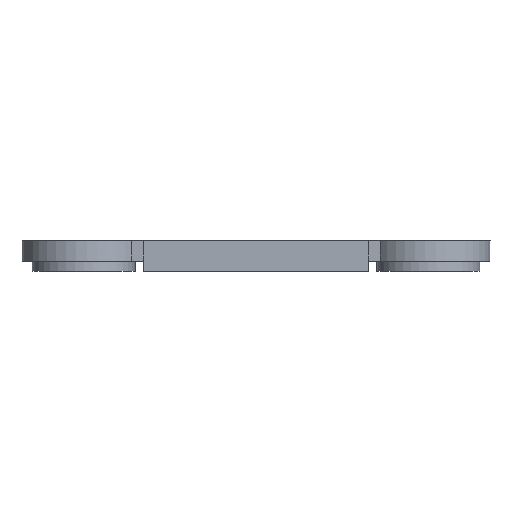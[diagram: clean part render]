
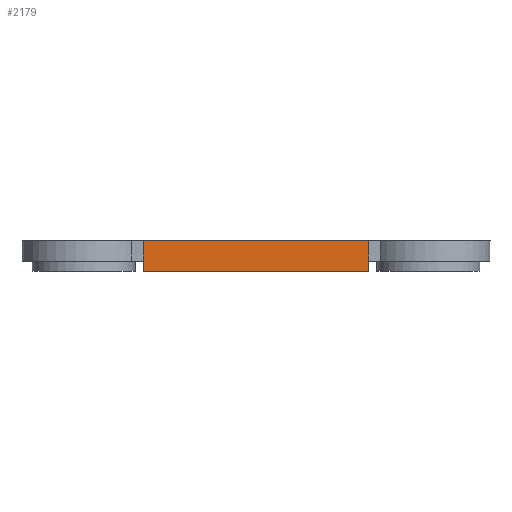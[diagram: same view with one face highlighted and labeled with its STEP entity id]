
A CAD part, front view. The second image highlights one B-rep face of the part: STEP entity #2179.
In plain terms, the highlighted planar face has unit normal (0, -1, 0).
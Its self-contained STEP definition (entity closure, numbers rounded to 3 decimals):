
#22 = VERTEX_POINT('',#23);
#23 = CARTESIAN_POINT('',(-4.238,-11.496,6.8));
#32 = PLANE('',#33);
#33 = AXIS2_PLACEMENT_3D('',#34,#35,#36);
#34 = CARTESIAN_POINT('',(-4.238,-11.496,5.6));
#35 = DIRECTION('',(1.,0.,-0.));
#36 = DIRECTION('',(0.,0.,1.));
#44 = PLANE('',#45);
#45 = AXIS2_PLACEMENT_3D('',#46,#47,#48);
#46 = CARTESIAN_POINT('',(-4.238,-11.496,6.8));
#47 = DIRECTION('',(0.,0.,1.));
#48 = DIRECTION('',(1.,0.,-0.));
#56 = EDGE_CURVE('',#57,#22,#59,.T.);
#57 = VERTEX_POINT('',#58);
#58 = CARTESIAN_POINT('',(-4.238,-11.496,5.6));
#59 = SURFACE_CURVE('',#60,(#64,#71),.PCURVE_S1.);
#60 = LINE('',#61,#62);
#61 = CARTESIAN_POINT('',(-4.238,-11.496,5.6));
#62 = VECTOR('',#63,1.);
#63 = DIRECTION('',(0.,0.,1.));
#64 = PCURVE('',#32,#65);
#65 = DEFINITIONAL_REPRESENTATION('',(#66),#70);
#66 = LINE('',#67,#68);
#67 = CARTESIAN_POINT('',(0.,0.));
#68 = VECTOR('',#69,1.);
#69 = DIRECTION('',(1.,0.));
#70 = ( GEOMETRIC_REPRESENTATION_CONTEXT(2) 
PARAMETRIC_REPRESENTATION_CONTEXT() REPRESENTATION_CONTEXT('2D SPACE',''
  ) );
#71 = PCURVE('',#72,#77);
#72 = PLANE('',#73);
#73 = AXIS2_PLACEMENT_3D('',#74,#75,#76);
#74 = CARTESIAN_POINT('',(-4.238,-11.496,5.6));
#75 = DIRECTION('',(-0.,1.,0.));
#76 = DIRECTION('',(0.,0.,1.));
#77 = DEFINITIONAL_REPRESENTATION('',(#78),#82);
#78 = LINE('',#79,#80);
#79 = CARTESIAN_POINT('',(0.,0.));
#80 = VECTOR('',#81,1.);
#81 = DIRECTION('',(1.,0.));
#82 = ( GEOMETRIC_REPRESENTATION_CONTEXT(2) 
PARAMETRIC_REPRESENTATION_CONTEXT() REPRESENTATION_CONTEXT('2D SPACE',''
  ) );
#100 = PLANE('',#101);
#101 = AXIS2_PLACEMENT_3D('',#102,#103,#104);
#102 = CARTESIAN_POINT('',(-4.238,-11.496,5.6));
#103 = DIRECTION('',(0.,0.,1.));
#104 = DIRECTION('',(1.,0.,-0.));
#806 = PLANE('',#807);
#807 = AXIS2_PLACEMENT_3D('',#808,#809,#810);
#808 = CARTESIAN_POINT('',(4.522,-11.496,5.6));
#809 = DIRECTION('',(1.,0.,-0.));
#810 = DIRECTION('',(0.,0.,1.));
#843 = VERTEX_POINT('',#844);
#844 = CARTESIAN_POINT('',(4.522,-11.496,6.8));
#865 = EDGE_CURVE('',#866,#843,#868,.T.);
#866 = VERTEX_POINT('',#867);
#867 = CARTESIAN_POINT('',(4.522,-11.496,5.6));
#868 = SURFACE_CURVE('',#869,(#873,#880),.PCURVE_S1.);
#869 = LINE('',#870,#871);
#870 = CARTESIAN_POINT('',(4.522,-11.496,5.6));
#871 = VECTOR('',#872,1.);
#872 = DIRECTION('',(0.,0.,1.));
#873 = PCURVE('',#806,#874);
#874 = DEFINITIONAL_REPRESENTATION('',(#875),#879);
#875 = LINE('',#876,#877);
#876 = CARTESIAN_POINT('',(0.,0.));
#877 = VECTOR('',#878,1.);
#878 = DIRECTION('',(1.,0.));
#879 = ( GEOMETRIC_REPRESENTATION_CONTEXT(2) 
PARAMETRIC_REPRESENTATION_CONTEXT() REPRESENTATION_CONTEXT('2D SPACE',''
  ) );
#880 = PCURVE('',#72,#881);
#881 = DEFINITIONAL_REPRESENTATION('',(#882),#886);
#882 = LINE('',#883,#884);
#883 = CARTESIAN_POINT('',(0.,8.76));
#884 = VECTOR('',#885,1.);
#885 = DIRECTION('',(1.,0.));
#886 = ( GEOMETRIC_REPRESENTATION_CONTEXT(2) 
PARAMETRIC_REPRESENTATION_CONTEXT() REPRESENTATION_CONTEXT('2D SPACE',''
  ) );
#2157 = EDGE_CURVE('',#57,#866,#2158,.T.);
#2158 = SURFACE_CURVE('',#2159,(#2163,#2170),.PCURVE_S1.);
#2159 = LINE('',#2160,#2161);
#2160 = CARTESIAN_POINT('',(-4.238,-11.496,5.6));
#2161 = VECTOR('',#2162,1.);
#2162 = DIRECTION('',(1.,0.,-0.));
#2163 = PCURVE('',#100,#2164);
#2164 = DEFINITIONAL_REPRESENTATION('',(#2165),#2169);
#2165 = LINE('',#2166,#2167);
#2166 = CARTESIAN_POINT('',(0.,0.));
#2167 = VECTOR('',#2168,1.);
#2168 = DIRECTION('',(1.,0.));
#2169 = ( GEOMETRIC_REPRESENTATION_CONTEXT(2) 
PARAMETRIC_REPRESENTATION_CONTEXT() REPRESENTATION_CONTEXT('2D SPACE',''
  ) );
#2170 = PCURVE('',#72,#2171);
#2171 = DEFINITIONAL_REPRESENTATION('',(#2172),#2176);
#2172 = LINE('',#2173,#2174);
#2173 = CARTESIAN_POINT('',(0.,0.));
#2174 = VECTOR('',#2175,1.);
#2175 = DIRECTION('',(0.,1.));
#2176 = ( GEOMETRIC_REPRESENTATION_CONTEXT(2) 
PARAMETRIC_REPRESENTATION_CONTEXT() REPRESENTATION_CONTEXT('2D SPACE',''
  ) );
#2179 = ADVANCED_FACE('',(#2180),#72,.F.);
#2180 = FACE_BOUND('',#2181,.F.);
#2181 = EDGE_LOOP('',(#2182,#2183,#2184,#2205));
#2182 = ORIENTED_EDGE('',*,*,#2157,.F.);
#2183 = ORIENTED_EDGE('',*,*,#56,.T.);
#2184 = ORIENTED_EDGE('',*,*,#2185,.T.);
#2185 = EDGE_CURVE('',#22,#843,#2186,.T.);
#2186 = SURFACE_CURVE('',#2187,(#2191,#2198),.PCURVE_S1.);
#2187 = LINE('',#2188,#2189);
#2188 = CARTESIAN_POINT('',(-4.238,-11.496,6.8));
#2189 = VECTOR('',#2190,1.);
#2190 = DIRECTION('',(1.,0.,-0.));
#2191 = PCURVE('',#72,#2192);
#2192 = DEFINITIONAL_REPRESENTATION('',(#2193),#2197);
#2193 = LINE('',#2194,#2195);
#2194 = CARTESIAN_POINT('',(1.2,0.));
#2195 = VECTOR('',#2196,1.);
#2196 = DIRECTION('',(0.,1.));
#2197 = ( GEOMETRIC_REPRESENTATION_CONTEXT(2) 
PARAMETRIC_REPRESENTATION_CONTEXT() REPRESENTATION_CONTEXT('2D SPACE',''
  ) );
#2198 = PCURVE('',#44,#2199);
#2199 = DEFINITIONAL_REPRESENTATION('',(#2200),#2204);
#2200 = LINE('',#2201,#2202);
#2201 = CARTESIAN_POINT('',(0.,0.));
#2202 = VECTOR('',#2203,1.);
#2203 = DIRECTION('',(1.,0.));
#2204 = ( GEOMETRIC_REPRESENTATION_CONTEXT(2) 
PARAMETRIC_REPRESENTATION_CONTEXT() REPRESENTATION_CONTEXT('2D SPACE',''
  ) );
#2205 = ORIENTED_EDGE('',*,*,#865,.F.);
